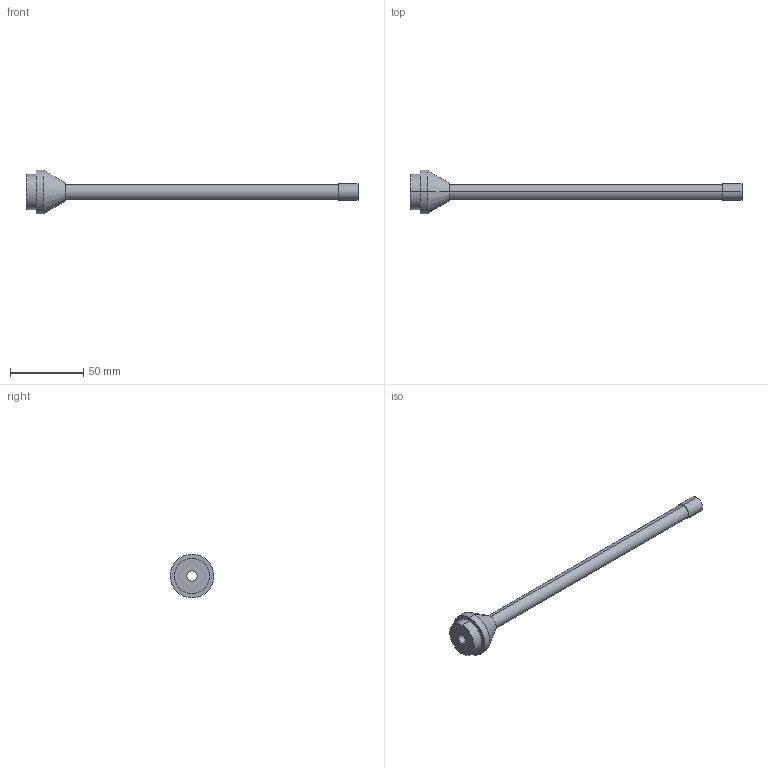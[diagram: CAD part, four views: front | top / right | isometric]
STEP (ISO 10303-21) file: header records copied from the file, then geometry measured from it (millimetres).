
FILE_DESCRIPTION (( 'STEP AP203' ), '1' );
FILE_NAME ('ER-AD20.STEP', '2005-09-05T02:01:00', ( '' ), ( '' ), 'SwSTEP 2.0', 'SolidWorks 2004073', '' );
FILE_SCHEMA (( 'CONFIG_CONTROL_DESIGN' ));
Length unit declared in the file: millimetre
Products named in the file (1): ER-AD20
Bounding box: 227 x 30 x 30 mm (x, y, z)
Volume: 19400.9 mm3; surface area: 14245.1 mm2
Topology: 1 solids, 1 shells, 17 faces, 34 edges, 22 vertices
Faces by surface type: cylinder 10, plane 5, cone 2
Entity records: 535 total; most frequent: DIRECTION 92, CARTESIAN_POINT 74, ORIENTED_EDGE 68, AXIS2_PLACEMENT_3D 40, EDGE_CURVE 34, EDGE_LOOP 22, VERTEX_POINT 22, CIRCLE 22
